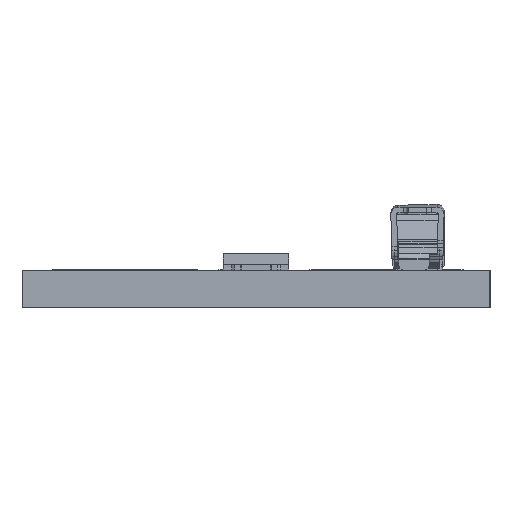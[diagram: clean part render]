
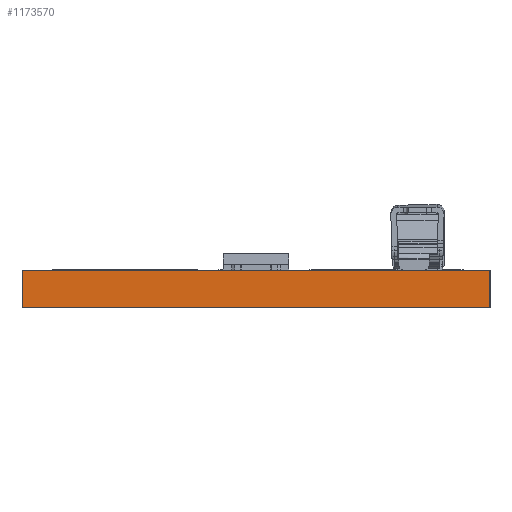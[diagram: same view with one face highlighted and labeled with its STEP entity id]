
A CAD part, left-side view. The second image highlights one B-rep face of the part: STEP entity #1173570.
In plain terms, the highlighted planar face has unit normal (-1, 0, 0).
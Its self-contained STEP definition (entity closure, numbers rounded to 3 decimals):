
#1154320=CARTESIAN_POINT('',(0.,0.,0.));
#1154330=DIRECTION('',(0.,1.,0.));
#1154340=VECTOR('',#1154330,0.039);
#1154350=LINE('',#1154320,#1154340);
#1154360=CARTESIAN_POINT('',(0.,0.,0.));
#1154370=VERTEX_POINT('',#1154360);
#1154380=CARTESIAN_POINT('',(0.,20.,0.));
#1154390=VERTEX_POINT('',#1154380);
#1154400=EDGE_CURVE('',#1154370,#1154390,#1154350,.T.);
#1160710=CARTESIAN_POINT('',(0.,0.,-1.6));
#1160720=VERTEX_POINT('',#1160710);
#1162850=CARTESIAN_POINT('',(0.,20.,-1.6));
#1162860=VERTEX_POINT('',#1162850);
#1162890=CARTESIAN_POINT('',(0.,0.,-1.6));
#1162900=DIRECTION('',(0.,1.,0.));
#1162910=VECTOR('',#1162900,0.039);
#1162920=LINE('',#1162890,#1162910);
#1162930=EDGE_CURVE('',#1160720,#1162860,#1162920,.T.);
#1167060=CARTESIAN_POINT('',(0.,0.,0.));
#1167070=DIRECTION('',(0.,0.,-1.));
#1167080=VECTOR('',#1167070,1.);
#1167090=LINE('',#1167060,#1167080);
#1167100=EDGE_CURVE('',#1154370,#1160720,#1167090,.T.);
#1173280=CARTESIAN_POINT('',(0.,20.,0.));
#1173290=DIRECTION('',(0.,0.,-1.));
#1173300=VECTOR('',#1173290,1.);
#1173310=LINE('',#1173280,#1173300);
#1173320=EDGE_CURVE('',#1154390,#1162860,#1173310,.T.);
#1173460=CARTESIAN_POINT('',(0.,0.,0.));
#1173470=DIRECTION('',(1.,0.,0.));
#1173480=DIRECTION('',(0.,-1.,0.));
#1173490=AXIS2_PLACEMENT_3D('',#1173460,#1173470,#1173480);
#1173500=PLANE('',#1173490);
#1173510=ORIENTED_EDGE('',*,*,#1154400,.T.);
#1173520=ORIENTED_EDGE('',*,*,#1167100,.F.);
#1173530=ORIENTED_EDGE('',*,*,#1162930,.F.);
#1173540=ORIENTED_EDGE('',*,*,#1173320,.T.);
#1173550=EDGE_LOOP('',(#1173540,#1173530,#1173520,#1173510));
#1173560=FACE_OUTER_BOUND('',#1173550,.T.);
#1173570=ADVANCED_FACE('',(#1173560),#1173500,.F.);
